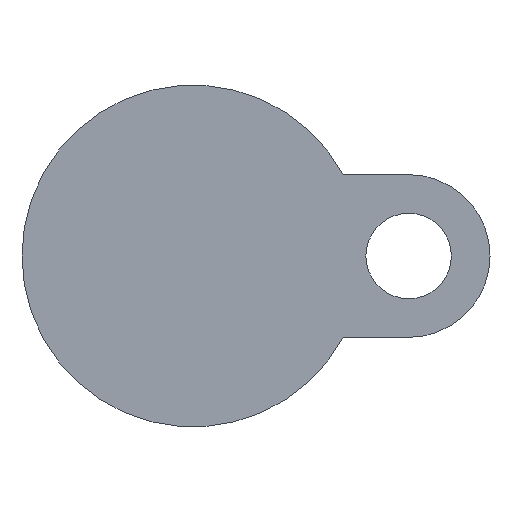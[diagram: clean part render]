
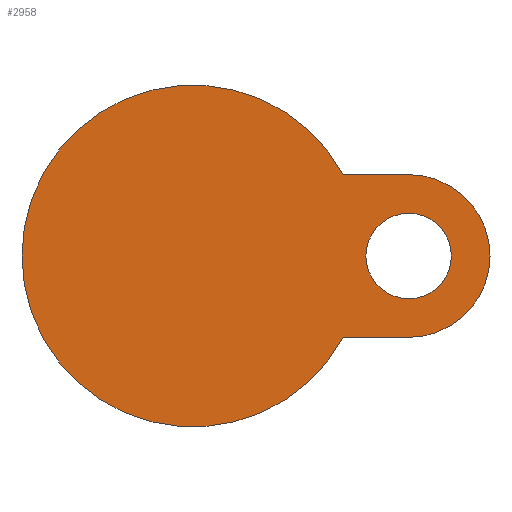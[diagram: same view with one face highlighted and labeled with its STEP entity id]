
A CAD part, front view. The second image highlights one B-rep face of the part: STEP entity #2958.
In plain terms, the highlighted planar face has unit normal (0, -1, 0).
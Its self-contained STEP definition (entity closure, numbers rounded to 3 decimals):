
#14 = VERTEX_POINT ( 'NONE', #1159 ) ;
#59 = EDGE_LOOP ( 'NONE', ( #3974, #1794 ) ) ;
#63 = CARTESIAN_POINT ( 'NONE',  ( 26.5, -12., -10. ) ) ;
#135 = FACE_OUTER_BOUND ( 'NONE', #3518, .T. ) ;
#161 = VERTEX_POINT ( 'NONE', #2232 ) ;
#181 = ORIENTED_EDGE ( 'NONE', *, *, #1574, .F. ) ;
#192 = ORIENTED_EDGE ( 'NONE', *, *, #2505, .T. ) ;
#248 = VERTEX_POINT ( 'NONE', #1494 ) ;
#344 = DIRECTION ( 'NONE',  ( 0., -1., 0. ) ) ;
#545 = ORIENTED_EDGE ( 'NONE', *, *, #1757, .F. ) ;
#606 = DIRECTION ( 'NONE',  ( 0., -1., 0. ) ) ;
#639 = CARTESIAN_POINT ( 'NONE',  ( 26.5, -12., 0. ) ) ;
#688 = VERTEX_POINT ( 'NONE', #955 ) ;
#736 = ORIENTED_EDGE ( 'NONE', *, *, #5128, .T. ) ;
#799 = AXIS2_PLACEMENT_3D ( 'NONE', #639, #5382, #4936 ) ;
#899 = CARTESIAN_POINT ( 'NONE',  ( 26.5, -12., 0. ) ) ;
#952 = CARTESIAN_POINT ( 'NONE',  ( 26.5, -12., 0. ) ) ;
#955 = CARTESIAN_POINT ( 'NONE',  ( 31.75, -12., 0. ) ) ;
#1092 = CARTESIAN_POINT ( 'NONE',  ( 26.5, -12., -10. ) ) ;
#1159 = CARTESIAN_POINT ( 'NONE',  ( 18.466, -12., 10. ) ) ;
#1239 = EDGE_CURVE ( 'NONE', #1446, #2362, #2240, .T. ) ;
#1344 = CARTESIAN_POINT ( 'NONE',  ( 0., -12., 0. ) ) ;
#1446 = VERTEX_POINT ( 'NONE', #5000 ) ;
#1494 = CARTESIAN_POINT ( 'NONE',  ( 21.25, -12., 0. ) ) ;
#1574 = EDGE_CURVE ( 'NONE', #1760, #14, #4863, .T. ) ;
#1635 = DIRECTION ( 'NONE',  ( -1., 0., 0. ) ) ;
#1757 = EDGE_CURVE ( 'NONE', #1446, #1760, #4238, .T. ) ;
#1760 = VERTEX_POINT ( 'NONE', #2243 ) ;
#1794 = ORIENTED_EDGE ( 'NONE', *, *, #3559, .F. ) ;
#1829 = AXIS2_PLACEMENT_3D ( 'NONE', #1344, #3885, #4746 ) ;
#2040 = ORIENTED_EDGE ( 'NONE', *, *, #1239, .T. ) ;
#2096 = CIRCLE ( 'NONE', #4589, 5.25 ) ;
#2111 = CARTESIAN_POINT ( 'NONE',  ( 11.379, -12., 10. ) ) ;
#2132 = CIRCLE ( 'NONE', #799, 10. ) ;
#2232 = CARTESIAN_POINT ( 'NONE',  ( 36.5, -12., 0. ) ) ;
#2240 = LINE ( 'NONE', #63, #5209 ) ;
#2243 = CARTESIAN_POINT ( 'NONE',  ( -21., -12., 0. ) ) ;
#2362 = VERTEX_POINT ( 'NONE', #1092 ) ;
#2505 = EDGE_CURVE ( 'NONE', #161, #2770, #3960, .T. ) ;
#2562 = LINE ( 'NONE', #2111, #4622 ) ;
#2578 = EDGE_CURVE ( 'NONE', #688, #248, #2096, .T. ) ;
#2632 = DIRECTION ( 'NONE',  ( 1., 0., 0. ) ) ;
#2713 = DIRECTION ( 'NONE',  ( 1., 0., 0. ) ) ;
#2726 = AXIS2_PLACEMENT_3D ( 'NONE', #899, #4715, #5475 ) ;
#2732 = FACE_BOUND ( 'NONE', #59, .T. ) ;
#2770 = VERTEX_POINT ( 'NONE', #4707 ) ;
#2958 = ADVANCED_FACE ( 'NONE', ( #135, #2732 ), #3501, .T. ) ;
#3037 = DIRECTION ( 'NONE',  ( 1., 0., 0. ) ) ;
#3261 = AXIS2_PLACEMENT_3D ( 'NONE', #3317, #4235, #1635 ) ;
#3317 = CARTESIAN_POINT ( 'NONE',  ( 0., -12., 0. ) ) ;
#3447 = CIRCLE ( 'NONE', #4615, 5.25 ) ;
#3501 = PLANE ( 'NONE',  #4789 ) ;
#3512 = DIRECTION ( 'NONE',  ( 0., -1., 0. ) ) ;
#3518 = EDGE_LOOP ( 'NONE', ( #545, #2040, #736, #192, #4068, #181 ) ) ;
#3559 = EDGE_CURVE ( 'NONE', #248, #688, #3447, .T. ) ;
#3885 = DIRECTION ( 'NONE',  ( 0., 1., 0. ) ) ;
#3960 = CIRCLE ( 'NONE', #2726, 10. ) ;
#3974 = ORIENTED_EDGE ( 'NONE', *, *, #2578, .F. ) ;
#4068 = ORIENTED_EDGE ( 'NONE', *, *, #4275, .T. ) ;
#4158 = DIRECTION ( 'NONE',  ( 1., 0., 0. ) ) ;
#4235 = DIRECTION ( 'NONE',  ( 0., 1., 0. ) ) ;
#4238 = CIRCLE ( 'NONE', #1829, 21. ) ;
#4275 = EDGE_CURVE ( 'NONE', #2770, #14, #2562, .T. ) ;
#4424 = CARTESIAN_POINT ( 'NONE',  ( 0., -12., 0. ) ) ;
#4487 = CARTESIAN_POINT ( 'NONE',  ( 26.5, -12., 0. ) ) ;
#4589 = AXIS2_PLACEMENT_3D ( 'NONE', #952, #3512, #2713 ) ;
#4615 = AXIS2_PLACEMENT_3D ( 'NONE', #4487, #344, #4158 ) ;
#4622 = VECTOR ( 'NONE', #4729, 1000. ) ;
#4707 = CARTESIAN_POINT ( 'NONE',  ( 26.5, -12., 10. ) ) ;
#4715 = DIRECTION ( 'NONE',  ( 0., -1., 0. ) ) ;
#4729 = DIRECTION ( 'NONE',  ( -1., 0., 0. ) ) ;
#4746 = DIRECTION ( 'NONE',  ( -1., 0., 0. ) ) ;
#4789 = AXIS2_PLACEMENT_3D ( 'NONE', #4424, #606, #3037 ) ;
#4863 = CIRCLE ( 'NONE', #3261, 21. ) ;
#4936 = DIRECTION ( 'NONE',  ( 1., 0., 0. ) ) ;
#5000 = CARTESIAN_POINT ( 'NONE',  ( 18.466, -12., -10. ) ) ;
#5128 = EDGE_CURVE ( 'NONE', #2362, #161, #2132, .T. ) ;
#5209 = VECTOR ( 'NONE', #2632, 1000. ) ;
#5382 = DIRECTION ( 'NONE',  ( 0., -1., 0. ) ) ;
#5475 = DIRECTION ( 'NONE',  ( 1., 0., 0. ) ) ;
